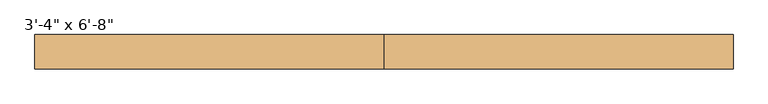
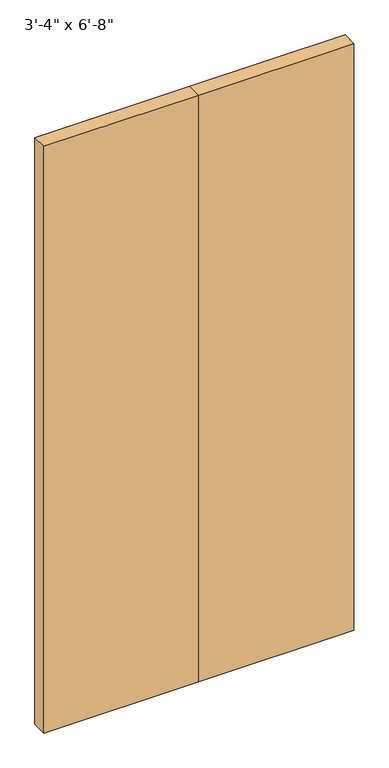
"""IFC4 building model written with IfcOpenShell, lengths in millimetres: door geometry."""

from ifc_helpers import new_model, si_unit, origin, origin_with_axes, place, context, project, spatial, polyline, outline, extrude, source, transform, mapped, element, save


def door_8ab78930(model_context):
    return source(origin(), model_context, "Body", "SweptSolid", [
        extrude(outline(polyline([(0.0, 57.15), (508.0, 57.15), (508.0, 7.15), (0.0, 7.15), (0.0, 57.15)])), origin_with_axes(), (0.0, 0.0, 1.0), 2032.0),
        extrude(outline(polyline([(-508.0, 57.15), (0.0, 57.15), (0.0, 7.15), (-508.0, 7.15), (-508.0, 57.15)])), origin_with_axes(), (0.0, 0.0, 1.0), 2032.0),
    ])


if __name__ == "__main__":
    model = new_model("IFC4")
    model_context = context("Model", 3, world=origin())
    ifc_project = project(units=[si_unit("LENGTHUNIT", "METRE", prefix="MILLI")], contexts=[model_context])
    site = spatial("IfcSite", under=ifc_project)
    building = spatial("IfcBuilding", under=site)
    placement = place(None, origin())
    door_shape = door_8ab78930(model_context)
    element("IfcDoor", 1, ObjectType="Planitar - Double Door_Flush Panel : 3'-4\" x 6'-8\"", at=placement, inside=building, context=model_context, shape_type="MappedRepresentation", body=[
        mapped(door_shape, transform((0.0, 0.0, 0.0), x_axis=(1.0, 0.0, 0.0), y_axis=(0.0, 1.0, 0.0), z_axis=(0.0, 0.0, 1.0))),
    ])
    save(model, "model.ifc")
